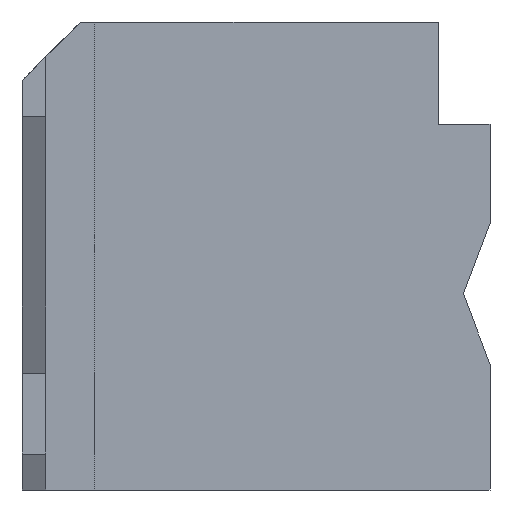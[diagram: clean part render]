
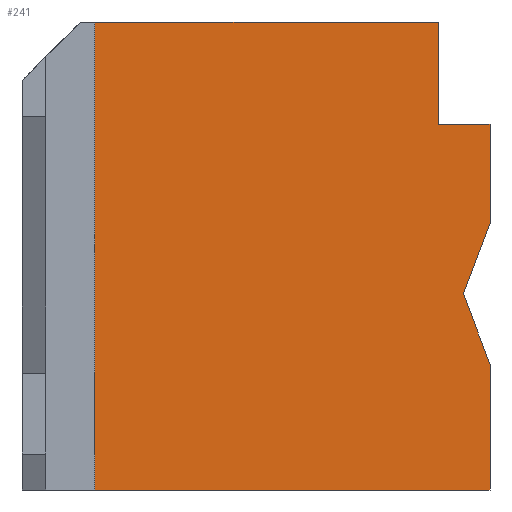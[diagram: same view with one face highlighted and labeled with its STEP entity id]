
A CAD part, front view. The second image highlights one B-rep face of the part: STEP entity #241.
In plain terms, the highlighted planar face has unit normal (0, -1, 0).
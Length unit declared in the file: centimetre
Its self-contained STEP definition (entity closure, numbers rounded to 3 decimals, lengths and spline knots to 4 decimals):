
#7 = CARTESIAN_POINT ( 'NONE',  ( 943.2637, 0., 419.1603 ) ) ;
#71 = LINE ( 'NONE', #680, #989 ) ;
#113 = VECTOR ( 'NONE', #402, 100. ) ;
#139 = LINE ( 'NONE', #435, #624 ) ;
#140 = CARTESIAN_POINT ( 'NONE',  ( 1000., 0., 0. ) ) ;
#141 = EDGE_CURVE ( 'NONE', #1206, #983, #352, .T. ) ;
#164 = EDGE_CURVE ( 'NONE', #314, #514, #666, .T. ) ;
#167 = VERTEX_POINT ( 'NONE', #850 ) ;
#169 = EDGE_CURVE ( 'NONE', #685, #983, #1259, .T. ) ;
#170 = FACE_OUTER_BOUND ( 'NONE', #287, .T. ) ;
#186 = VERTEX_POINT ( 'NONE', #671 ) ;
#191 = CARTESIAN_POINT ( 'NONE',  ( 1000., 0., 268.954 ) ) ;
#213 = EDGE_CURVE ( 'NONE', #314, #692, #71, .T. ) ;
#225 = EDGE_CURVE ( 'NONE', #167, #692, #268, .T. ) ;
#241 = ADVANCED_FACE ( 'NONE', ( #170 ), #363, .F. ) ;
#267 = VECTOR ( 'NONE', #333, 100. ) ;
#268 = LINE ( 'NONE', #1283, #741 ) ;
#287 = EDGE_LOOP ( 'NONE', ( #916, #868, #1277, #1214, #1173, #778, #482, #820, #359 ) ) ;
#308 = LINE ( 'NONE', #313, #957 ) ;
#313 = CARTESIAN_POINT ( 'NONE',  ( 890.0764, 0., 781.5885 ) ) ;
#314 = VERTEX_POINT ( 'NONE', #361 ) ;
#325 = DIRECTION ( 'NONE',  ( 0., 0., -1. ) ) ;
#333 = DIRECTION ( 'NONE',  ( 0., 0., -1. ) ) ;
#347 = CARTESIAN_POINT ( 'NONE',  ( 943.2637, 0., 419.1603 ) ) ;
#352 = LINE ( 'NONE', #547, #788 ) ;
#359 = ORIENTED_EDGE ( 'NONE', *, *, #225, .T. ) ;
#361 = CARTESIAN_POINT ( 'NONE',  ( 155.1795, 0., 1000. ) ) ;
#363 = PLANE ( 'NONE',  #441 ) ;
#368 = DIRECTION ( 'NONE',  ( 0., 0., 1. ) ) ;
#402 = DIRECTION ( 'NONE',  ( -0.353, 0., 0.935 ) ) ;
#406 = CARTESIAN_POINT ( 'NONE',  ( 0., 0., 0. ) ) ;
#414 = EDGE_CURVE ( 'NONE', #514, #589, #1003, .T. ) ;
#435 = CARTESIAN_POINT ( 'NONE',  ( 1000., 0., 1000. ) ) ;
#441 = AXIS2_PLACEMENT_3D ( 'NONE', #779, #1172, #1178 ) ;
#444 = VECTOR ( 'NONE', #643, 100. ) ;
#482 = ORIENTED_EDGE ( 'NONE', *, *, #141, .F. ) ;
#514 = VERTEX_POINT ( 'NONE', #1140 ) ;
#525 = DIRECTION ( 'NONE',  ( -1., 0., 0. ) ) ;
#534 = CARTESIAN_POINT ( 'NONE',  ( 155.1795, 0., 797.7046 ) ) ;
#547 = CARTESIAN_POINT ( 'NONE',  ( 1000., 0., 1000. ) ) ;
#568 = VECTOR ( 'NONE', #926, 100. ) ;
#589 = VERTEX_POINT ( 'NONE', #140 ) ;
#624 = VECTOR ( 'NONE', #325, 100. ) ;
#643 = DIRECTION ( 'NONE',  ( 0.353, 0., 0.935 ) ) ;
#666 = LINE ( 'NONE', #534, #267 ) ;
#671 = CARTESIAN_POINT ( 'NONE',  ( 1000., 0., 268.954 ) ) ;
#680 = CARTESIAN_POINT ( 'NONE',  ( 0., 0., 1000. ) ) ;
#685 = VERTEX_POINT ( 'NONE', #7 ) ;
#688 = CARTESIAN_POINT ( 'NONE',  ( 890.0764, 0., 1000. ) ) ;
#692 = VERTEX_POINT ( 'NONE', #688 ) ;
#741 = VECTOR ( 'NONE', #368, 100. ) ;
#778 = ORIENTED_EDGE ( 'NONE', *, *, #169, .T. ) ;
#779 = CARTESIAN_POINT ( 'NONE',  ( 0., 0., 1000. ) ) ;
#780 = EDGE_CURVE ( 'NONE', #186, #589, #139, .T. ) ;
#788 = VECTOR ( 'NONE', #956, 100. ) ;
#820 = ORIENTED_EDGE ( 'NONE', *, *, #1254, .T. ) ;
#850 = CARTESIAN_POINT ( 'NONE',  ( 890.0764, 0., 781.5885 ) ) ;
#868 = ORIENTED_EDGE ( 'NONE', *, *, #164, .T. ) ;
#878 = DIRECTION ( 'NONE',  ( 1., 0., 0. ) ) ;
#916 = ORIENTED_EDGE ( 'NONE', *, *, #213, .F. ) ;
#926 = DIRECTION ( 'NONE',  ( 1., 0., 0. ) ) ;
#956 = DIRECTION ( 'NONE',  ( 0., 0., -1. ) ) ;
#957 = VECTOR ( 'NONE', #525, 100. ) ;
#983 = VERTEX_POINT ( 'NONE', #1152 ) ;
#989 = VECTOR ( 'NONE', #878, 100. ) ;
#1003 = LINE ( 'NONE', #406, #568 ) ;
#1116 = LINE ( 'NONE', #191, #113 ) ;
#1122 = EDGE_CURVE ( 'NONE', #186, #685, #1116, .T. ) ;
#1140 = CARTESIAN_POINT ( 'NONE',  ( 155.1795, 0., 0. ) ) ;
#1152 = CARTESIAN_POINT ( 'NONE',  ( 1000., 0., 569.3667 ) ) ;
#1172 = DIRECTION ( 'NONE',  ( 0., 1., 0. ) ) ;
#1173 = ORIENTED_EDGE ( 'NONE', *, *, #1122, .T. ) ;
#1178 = DIRECTION ( 'NONE',  ( 0., 0., 1. ) ) ;
#1206 = VERTEX_POINT ( 'NONE', #1225 ) ;
#1214 = ORIENTED_EDGE ( 'NONE', *, *, #780, .F. ) ;
#1225 = CARTESIAN_POINT ( 'NONE',  ( 1000., 0., 781.5885 ) ) ;
#1254 = EDGE_CURVE ( 'NONE', #1206, #167, #308, .T. ) ;
#1259 = LINE ( 'NONE', #347, #444 ) ;
#1277 = ORIENTED_EDGE ( 'NONE', *, *, #414, .T. ) ;
#1283 = CARTESIAN_POINT ( 'NONE',  ( 890.0764, 0., 781.5885 ) ) ;
